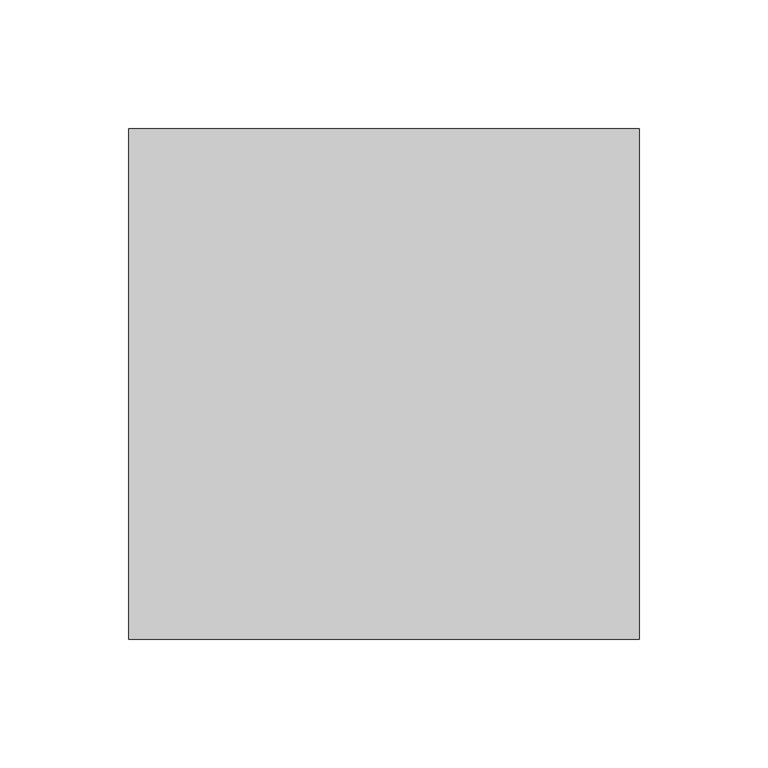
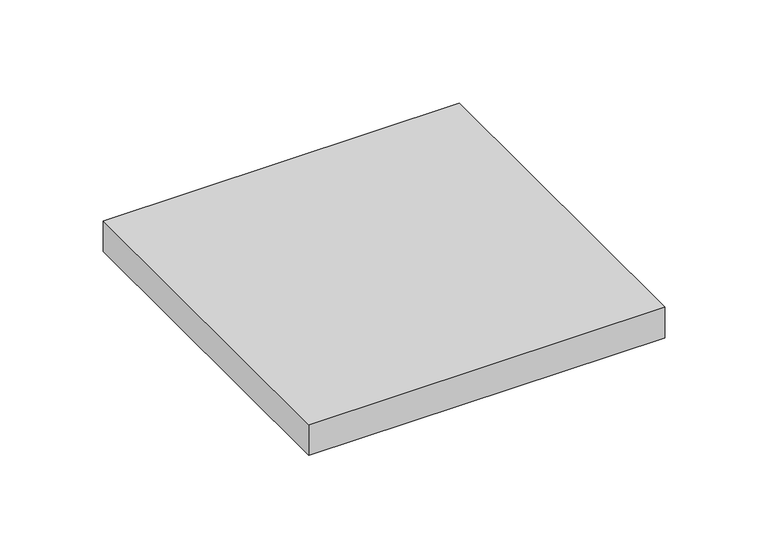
"""IFC4 building model written with IfcOpenShell, lengths in millimetres: proxy geometry, TECHNO_Решетка_KVU : Решетка рулонная деревянная / Светлое дерево."""

from ifc_helpers import new_model, si_unit, frame, origin, place, context, project, spatial, polyline, outline, extrude, source, transform, mapped, element, save


def mechanical_equipment_330198d8(model_context):
    return source(origin(), model_context, "Body", "SweptSolid", [
        extrude(outline(polyline([(98.8, 98.8), (98.8, -100.0), (-100.0, -100.0), (-100.0, 98.8), (98.8, 98.8)])), frame((0.0, 0.0, -18.1), z_axis=(0.0, 0.0, 1.0), x_axis=(1.0, 0.0, 0.0)), (0.0, 0.0, 1.0), 18.1),
    ])


if __name__ == "__main__":
    model = new_model("IFC4")
    model_context = context("Model", 3, world=origin())
    ifc_project = project(units=[si_unit("LENGTHUNIT", "METRE", prefix="MILLI")], contexts=[model_context])
    site = spatial("IfcSite", under=ifc_project)
    building = spatial("IfcBuilding", under=site)
    placement = place(None, origin())
    mechanical_equipment_shape = mechanical_equipment_330198d8(model_context)
    element("IfcBuildingElementProxy", 1, Name="TECHNO_Решетка_KVU : Решетка рулонная деревянная / Светлое дерево", ObjectType="TECHNO_Решетка_KVU : Решетка рулонная деревянная / Светлое дерево", at=placement, inside=building, context=model_context, shape_type="MappedRepresentation", body=[
        mapped(mechanical_equipment_shape, transform((0.0, 0.0, 0.0), x_axis=(1.0, 0.0, 0.0), y_axis=(0.0, 1.0, 0.0), z_axis=(0.0, 0.0, 1.0))),
    ])
    save(model, "model.ifc")
